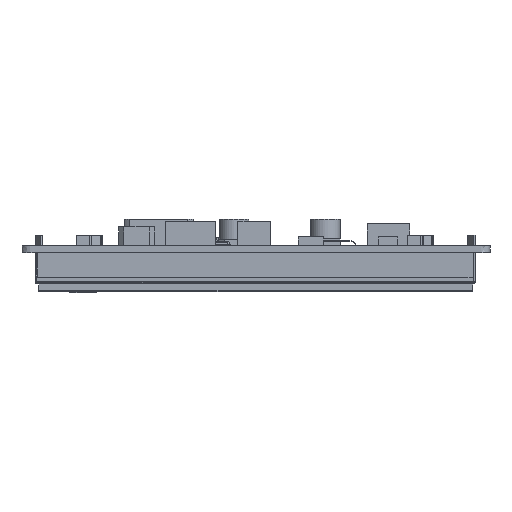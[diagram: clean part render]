
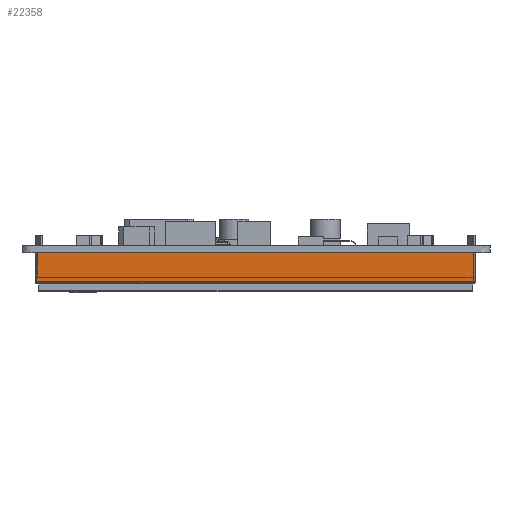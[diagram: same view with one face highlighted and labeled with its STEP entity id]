
A CAD part, left-side view. The second image highlights one B-rep face of the part: STEP entity #22358.
In plain terms, the highlighted planar face has unit normal (-1, 0, 0).
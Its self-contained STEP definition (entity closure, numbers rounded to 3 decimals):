
#8141=LINE('',#85839,#14640);
#8142=LINE('',#85842,#14641);
#8143=LINE('',#85844,#14642);
#8144=LINE('',#85846,#14643);
#14640=VECTOR('',#70187,1.);
#14641=VECTOR('',#70188,1.);
#14642=VECTOR('',#70189,1.);
#14643=VECTOR('',#70190,1.);
#17064=PLANE('',#57231);
#19692=FACE_OUTER_BOUND('',#25749,.T.);
#22358=ADVANCED_FACE('',(#19692),#17064,.F.);
#25749=EDGE_LOOP('',(#40096,#40097,#40098,#40099));
#40096=ORIENTED_EDGE('',*,*,#52777,.F.);
#40097=ORIENTED_EDGE('',*,*,#52778,.T.);
#40098=ORIENTED_EDGE('',*,*,#52779,.T.);
#40099=ORIENTED_EDGE('',*,*,#52780,.T.);
#45453=VERTEX_POINT('',#85840);
#45454=VERTEX_POINT('',#85841);
#45455=VERTEX_POINT('',#85843);
#45456=VERTEX_POINT('',#85845);
#52777=EDGE_CURVE('',#45453,#45454,#8141,.T.);
#52778=EDGE_CURVE('',#45453,#45455,#8142,.T.);
#52779=EDGE_CURVE('',#45455,#45456,#8143,.T.);
#52780=EDGE_CURVE('',#45456,#45454,#8144,.T.);
#57231=AXIS2_PLACEMENT_3D('',#85847,#70191,#70192);
#70187=DIRECTION('',(0.,0.,1.));
#70188=DIRECTION('',(0.,-1.,0.));
#70189=DIRECTION('',(0.,0.,1.));
#70190=DIRECTION('',(0.,1.,0.));
#70191=DIRECTION('',(1.,0.,0.));
#70192=DIRECTION('',(0.,0.,1.));
#85839=CARTESIAN_POINT('',(173.525,30.57,-8.8));
#85840=CARTESIAN_POINT('',(173.525,30.57,-8.3));
#85841=CARTESIAN_POINT('',(173.525,30.57,-1.6));
#85842=CARTESIAN_POINT('',(173.525,-70.43,-8.3));
#85843=CARTESIAN_POINT('',(173.525,-70.43,-8.3));
#85844=CARTESIAN_POINT('',(173.525,-70.43,-8.8));
#85845=CARTESIAN_POINT('',(173.525,-70.43,-1.6));
#85846=CARTESIAN_POINT('',(173.525,-70.43,-1.6));
#85847=CARTESIAN_POINT('',(173.525,-70.43,-8.8));
